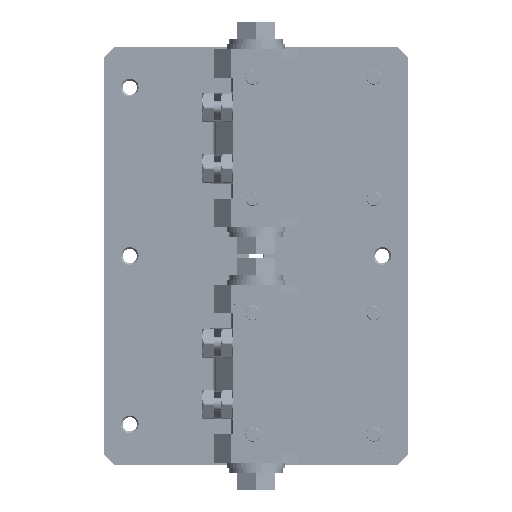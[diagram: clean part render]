
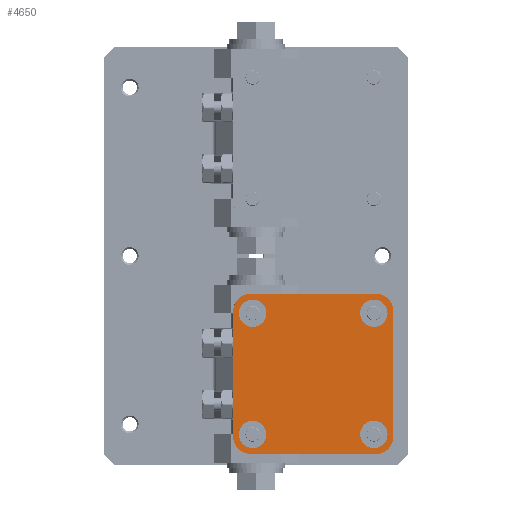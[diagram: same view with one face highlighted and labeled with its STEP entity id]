
A CAD part, front view. The second image highlights one B-rep face of the part: STEP entity #4650.
In plain terms, the highlighted planar face has unit normal (0, -1, 0).
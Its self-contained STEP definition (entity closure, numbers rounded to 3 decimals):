
#4650=ADVANCED_FACE('',(#10283,#10284,#10285,#10286,#10287),#7112,.F.);
#7112=PLANE('',#47363);
#8524=CIRCLE('',#47355,8.15);
#8525=CIRCLE('',#47356,8.15);
#8526=CIRCLE('',#47357,10.);
#8527=CIRCLE('',#47358,10.);
#8528=CIRCLE('',#47359,10.);
#8529=CIRCLE('',#47360,10.);
#8530=CIRCLE('',#47361,8.15);
#8531=CIRCLE('',#47362,8.15);
#10283=FACE_BOUND('',#12704,.T.);
#10284=FACE_BOUND('',#12705,.T.);
#10285=FACE_BOUND('',#12706,.T.);
#10286=FACE_BOUND('',#12707,.T.);
#10287=FACE_BOUND('',#12708,.T.);
#12704=EDGE_LOOP('',(#24923));
#12705=EDGE_LOOP('',(#24924));
#12706=EDGE_LOOP('',(#24925,#24926,#24927,#24928,#24929,#24930,#24931,#24932));
#12707=EDGE_LOOP('',(#24933));
#12708=EDGE_LOOP('',(#24934));
#16286=LINE('',#101682,#19342);
#16320=LINE('',#102095,#19384);
#16321=LINE('',#102100,#19385);
#16322=LINE('',#102105,#19386);
#19342=VECTOR('',#53342,1.);
#19384=VECTOR('',#53424,1.);
#19385=VECTOR('',#53427,1.);
#19386=VECTOR('',#53432,1.);
#24923=ORIENTED_EDGE('',*,*,#40114,.F.);
#24924=ORIENTED_EDGE('',*,*,#40115,.F.);
#24925=ORIENTED_EDGE('',*,*,#40116,.F.);
#24926=ORIENTED_EDGE('',*,*,#40117,.F.);
#24927=ORIENTED_EDGE('',*,*,#40118,.T.);
#24928=ORIENTED_EDGE('',*,*,#40119,.F.);
#24929=ORIENTED_EDGE('',*,*,#40039,.T.);
#24930=ORIENTED_EDGE('',*,*,#40120,.F.);
#24931=ORIENTED_EDGE('',*,*,#40121,.F.);
#24932=ORIENTED_EDGE('',*,*,#40122,.F.);
#24933=ORIENTED_EDGE('',*,*,#40123,.F.);
#24934=ORIENTED_EDGE('',*,*,#40124,.T.);
#35244=VERTEX_POINT('',#101680);
#35246=VERTEX_POINT('',#101683);
#35311=VERTEX_POINT('',#102092);
#35312=VERTEX_POINT('',#102094);
#35313=VERTEX_POINT('',#102096);
#35314=VERTEX_POINT('',#102097);
#35315=VERTEX_POINT('',#102099);
#35316=VERTEX_POINT('',#102101);
#35317=VERTEX_POINT('',#102104);
#35318=VERTEX_POINT('',#102106);
#35319=VERTEX_POINT('',#102109);
#35320=VERTEX_POINT('',#102111);
#40039=EDGE_CURVE('',#35246,#35244,#16286,.T.);
#40114=EDGE_CURVE('',#35311,#35311,#8524,.T.);
#40115=EDGE_CURVE('',#35312,#35312,#8525,.T.);
#40116=EDGE_CURVE('',#35313,#35314,#16320,.T.);
#40117=EDGE_CURVE('',#35315,#35313,#8526,.T.);
#40118=EDGE_CURVE('',#35315,#35316,#16321,.T.);
#40119=EDGE_CURVE('',#35246,#35316,#8527,.T.);
#40120=EDGE_CURVE('',#35317,#35244,#8528,.T.);
#40121=EDGE_CURVE('',#35318,#35317,#16322,.T.);
#40122=EDGE_CURVE('',#35314,#35318,#8529,.T.);
#40123=EDGE_CURVE('',#35319,#35319,#8530,.T.);
#40124=EDGE_CURVE('',#35320,#35320,#8531,.T.);
#47355=AXIS2_PLACEMENT_3D('',#102091,#53420,#53421);
#47356=AXIS2_PLACEMENT_3D('',#102093,#53422,#53423);
#47357=AXIS2_PLACEMENT_3D('',#102098,#53425,#53426);
#47358=AXIS2_PLACEMENT_3D('',#102102,#53428,#53429);
#47359=AXIS2_PLACEMENT_3D('',#102103,#53430,#53431);
#47360=AXIS2_PLACEMENT_3D('',#102107,#53433,#53434);
#47361=AXIS2_PLACEMENT_3D('',#102108,#53435,#53436);
#47362=AXIS2_PLACEMENT_3D('',#102110,#53437,#53438);
#47363=AXIS2_PLACEMENT_3D('',#102112,#53439,#53440);
#53342=DIRECTION('',(1.,0.,0.));
#53420=DIRECTION('',(0.,-1.,0.));
#53421=DIRECTION('',(0.,0.,1.));
#53422=DIRECTION('',(0.,-1.,0.));
#53423=DIRECTION('',(0.,0.,1.));
#53424=DIRECTION('',(1.,0.,0.));
#53425=DIRECTION('',(0.,1.,0.));
#53426=DIRECTION('',(1.,0.,0.));
#53427=DIRECTION('',(0.,0.,-1.));
#53428=DIRECTION('',(0.,1.,0.));
#53429=DIRECTION('',(1.,0.,0.));
#53430=DIRECTION('',(0.,1.,0.));
#53431=DIRECTION('',(1.,0.,0.));
#53432=DIRECTION('',(0.,0.,-1.));
#53433=DIRECTION('',(0.,1.,0.));
#53434=DIRECTION('',(1.,0.,0.));
#53435=DIRECTION('',(0.,-1.,0.));
#53436=DIRECTION('',(0.,0.,1.));
#53437=DIRECTION('',(0.,1.,0.));
#53438=DIRECTION('',(0.,0.,1.));
#53439=DIRECTION('',(0.,1.,0.));
#53440=DIRECTION('',(1.,0.,0.));
#101680=CARTESIAN_POINT('',(71.5,-258.,-49.5));
#101682=CARTESIAN_POINT('',(81.5,-258.,-49.5));
#101683=CARTESIAN_POINT('',(-3.5,-258.,-49.5));
#102091=CARTESIAN_POINT('',(-2.,-258.,-38.));
#102092=CARTESIAN_POINT('',(-2.,-258.,-29.85));
#102093=CARTESIAN_POINT('',(-2.,-258.,34.));
#102094=CARTESIAN_POINT('',(-2.,-258.,42.15));
#102095=CARTESIAN_POINT('',(-16.,-258.,45.5));
#102096=CARTESIAN_POINT('',(-3.5,-258.,45.5));
#102097=CARTESIAN_POINT('',(71.5,-258.,45.5));
#102098=CARTESIAN_POINT('',(-3.5,-258.,35.5));
#102099=CARTESIAN_POINT('',(-13.5,-258.,35.5));
#102100=CARTESIAN_POINT('',(-13.5,-258.,45.5));
#102101=CARTESIAN_POINT('',(-13.5,-258.,-39.5));
#102102=CARTESIAN_POINT('',(-3.5,-258.,-39.5));
#102103=CARTESIAN_POINT('',(71.5,-258.,-39.5));
#102104=CARTESIAN_POINT('',(81.5,-258.,-39.5));
#102105=CARTESIAN_POINT('',(81.5,-258.,45.5));
#102106=CARTESIAN_POINT('',(81.5,-258.,35.5));
#102107=CARTESIAN_POINT('',(71.5,-258.,35.5));
#102108=CARTESIAN_POINT('',(70.,-258.,-38.));
#102109=CARTESIAN_POINT('',(70.,-258.,-29.85));
#102110=CARTESIAN_POINT('',(70.,-258.,34.));
#102111=CARTESIAN_POINT('',(70.,-258.,42.15));
#102112=CARTESIAN_POINT('',(-16.,-258.,45.5));
